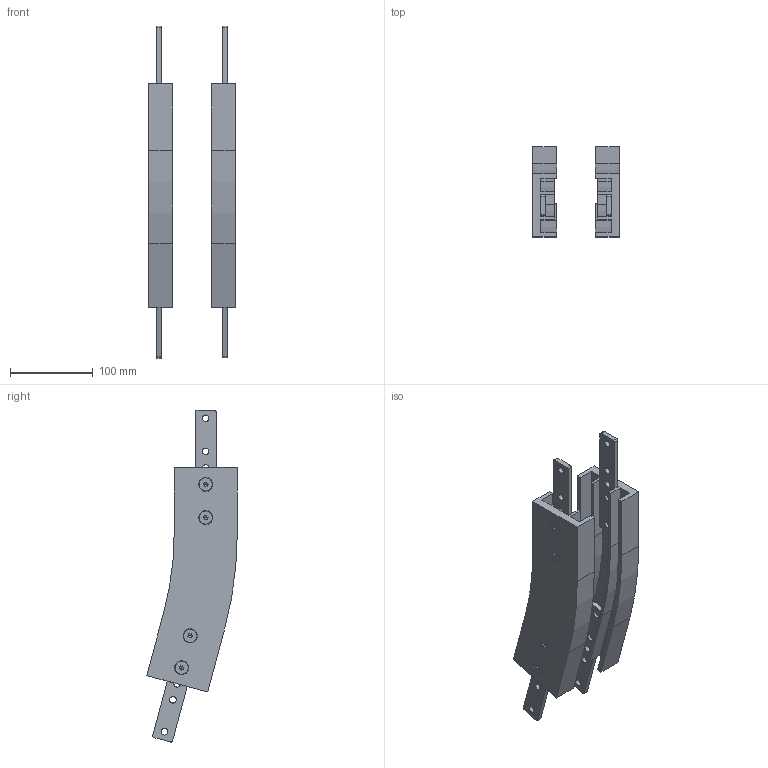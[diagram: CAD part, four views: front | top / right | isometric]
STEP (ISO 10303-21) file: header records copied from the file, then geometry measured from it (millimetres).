
FILE_DESCRIPTION (( 'STEP AP203' ), '1' );
FILE_NAME ('FCVB-15 R400.STEP', '2007-12-12T08:53:17', ( ' ' ), ( ' ' ), 'SwSTEP 2.0', 'SolidWorks 2008', '' );
FILE_SCHEMA (( 'CONFIG_CONTROL_DESIGN' ));
Length unit declared in the file: millimetre
Products named in the file (4): FACS-25.éclisse larg 25mm; courbe verticale FC105-R400_15R400; FCVB-15 R400; Vis F HC, M 8x12_Défaut
Assembly tree (13 placements, depth 2):
  FCVB-15 R400
    Vis F HC, M 8x12_Défaut  x8
    FACS-25.éclisse larg 25mm  x4
    courbe verticale FC105-R400_15R400
Bounding box: 105 x 109.34 x 401.19 mm (x, y, z)
Volume: 650992.7 mm3; surface area: 214286.4 mm2
Topology: 14 solids, 14 shells, 468 faces, 1216 edges, 768 vertices
Faces by surface type: plane 204, cylinder 176, cone 72, bspline 16
Entity records: 7288 total; most frequent: CARTESIAN_POINT 2597, DIRECTION 845, ORIENTED_EDGE 830, EDGE_CURVE 415, AXIS2_PLACEMENT_3D 291, VERTEX_POINT 268, VECTOR 263, LINE 263
